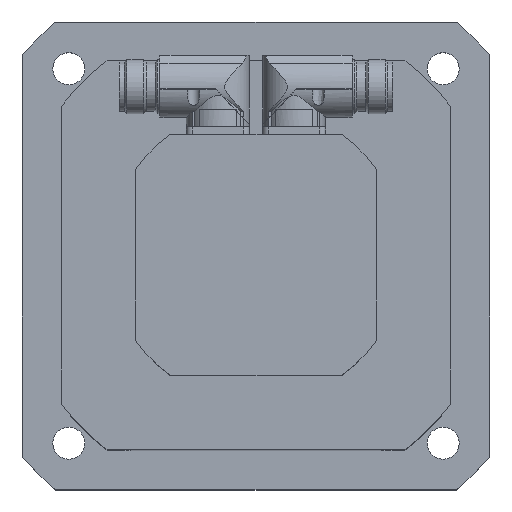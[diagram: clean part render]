
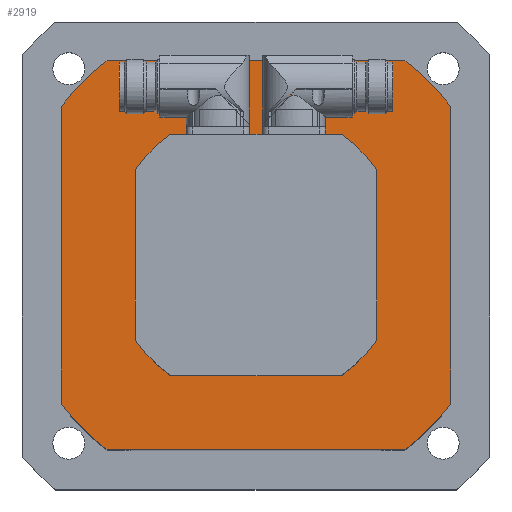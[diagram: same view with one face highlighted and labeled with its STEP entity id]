
A CAD part, top view. The second image highlights one B-rep face of the part: STEP entity #2919.
In plain terms, the highlighted planar face has unit normal (0, 0, 1).
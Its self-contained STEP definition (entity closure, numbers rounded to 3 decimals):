
#327=CIRCLE('',#3121,99.5);
#329=CIRCLE('',#3125,99.5);
#332=CIRCLE('',#3132,99.5);
#333=CIRCLE('',#3134,99.5);
#516=VERTEX_POINT('',#4578);
#517=VERTEX_POINT('',#4580);
#519=VERTEX_POINT('',#4586);
#521=VERTEX_POINT('',#4592);
#523=VERTEX_POINT('',#4598);
#526=VERTEX_POINT('',#4605);
#527=VERTEX_POINT('',#4607);
#529=VERTEX_POINT('',#4613);
#796=VECTOR('',#3607,1.);
#801=VECTOR('',#3619,1.);
#805=VECTOR('',#3630,1.);
#809=VECTOR('',#3635,1.);
#1027=LINE('',#4579,#796);
#1032=LINE('',#4593,#801);
#1036=LINE('',#4606,#805);
#1040=LINE('',#4614,#809);
#1310=EDGE_CURVE('',#517,#516,#1027,.T.);
#1314=EDGE_CURVE('',#516,#519,#327,.T.);
#1317=EDGE_CURVE('',#519,#521,#1032,.T.);
#1320=EDGE_CURVE('',#521,#523,#329,.T.);
#1323=EDGE_CURVE('',#527,#526,#1036,.T.);
#1327=EDGE_CURVE('',#523,#529,#1040,.T.);
#1330=EDGE_CURVE('',#526,#517,#332,.T.);
#1331=EDGE_CURVE('',#529,#527,#333,.T.);
#1900=ORIENTED_EDGE('',*,*,#1327,.T.);
#1901=ORIENTED_EDGE('',*,*,#1331,.T.);
#1902=ORIENTED_EDGE('',*,*,#1323,.T.);
#1903=ORIENTED_EDGE('',*,*,#1330,.T.);
#1904=ORIENTED_EDGE('',*,*,#1310,.T.);
#1905=ORIENTED_EDGE('',*,*,#1314,.T.);
#1906=ORIENTED_EDGE('',*,*,#1317,.T.);
#1907=ORIENTED_EDGE('',*,*,#1320,.T.);
#2508=EDGE_LOOP('',(#1900,#1901,#1902,#1903,#1904,#1905,#1906,#1907));
#2726=FACE_BOUND('',#2508,.T.);
#2919=ADVANCED_FACE('',(#2726),#5619,.T.);
#3121=AXIS2_PLACEMENT_3D('',#4587,#3614,#3615);
#3125=AXIS2_PLACEMENT_3D('',#4599,#3625,#3626);
#3132=AXIS2_PLACEMENT_3D('',#4619,#3643,#3644);
#3133=AXIS2_PLACEMENT_3D('',#4620,#3645,$);
#3134=AXIS2_PLACEMENT_3D('',#4621,#3646,#3647);
#3607=DIRECTION('',(0.,-1.,0.));
#3614=DIRECTION('',(0.,0.,1.));
#3615=DIRECTION('',(99.5,0.,0.));
#3619=DIRECTION('',(1.,0.,0.));
#3625=DIRECTION('',(0.,0.,1.));
#3626=DIRECTION('',(99.5,0.,0.));
#3630=DIRECTION('',(-1.,0.,0.));
#3635=DIRECTION('',(0.,1.,0.));
#3643=DIRECTION('',(0.,0.,1.));
#3644=DIRECTION('',(99.5,0.,0.));
#3645=DIRECTION('',(0.,0.,1.));
#3646=DIRECTION('',(0.,0.,1.));
#3647=DIRECTION('',(99.5,0.,0.));
#4578=CARTESIAN_POINT('',(-79.,-60.492,0.));
#4579=CARTESIAN_POINT('',(-79.,60.492,0.));
#4580=CARTESIAN_POINT('',(-79.,60.492,0.));
#4586=CARTESIAN_POINT('',(-60.492,-79.,0.));
#4587=CARTESIAN_POINT('',(0.,0.,0.));
#4592=CARTESIAN_POINT('',(60.492,-79.,0.));
#4593=CARTESIAN_POINT('',(-60.492,-79.,0.));
#4598=CARTESIAN_POINT('',(79.,-60.492,0.));
#4599=CARTESIAN_POINT('',(0.,0.,0.));
#4605=CARTESIAN_POINT('',(-60.492,79.,0.));
#4606=CARTESIAN_POINT('',(60.492,79.,0.));
#4607=CARTESIAN_POINT('',(60.492,79.,0.));
#4613=CARTESIAN_POINT('',(79.,60.492,0.));
#4614=CARTESIAN_POINT('',(79.,-60.492,0.));
#4619=CARTESIAN_POINT('',(0.,0.,0.));
#4620=CARTESIAN_POINT('',(0.,0.,0.));
#4621=CARTESIAN_POINT('',(0.,0.,0.));
#5619=PLANE('',#3133);
